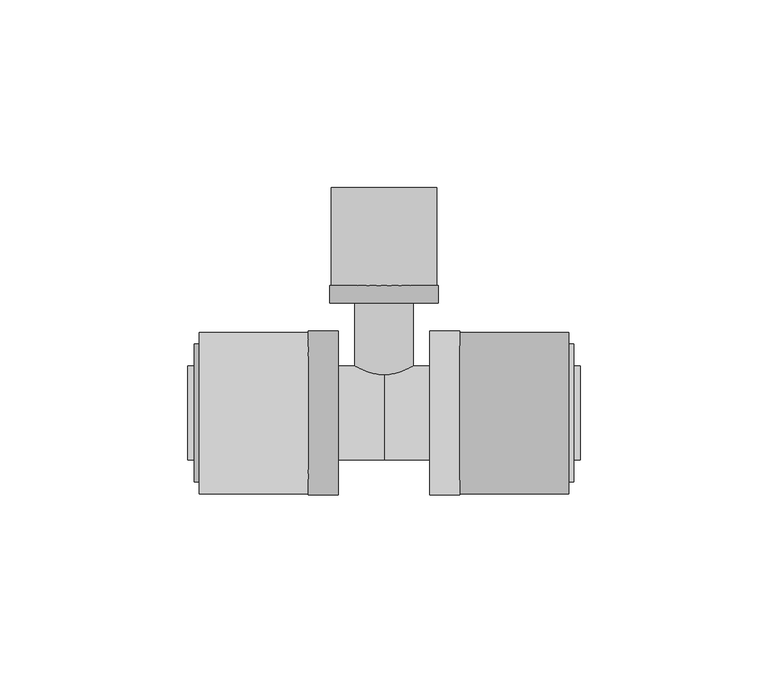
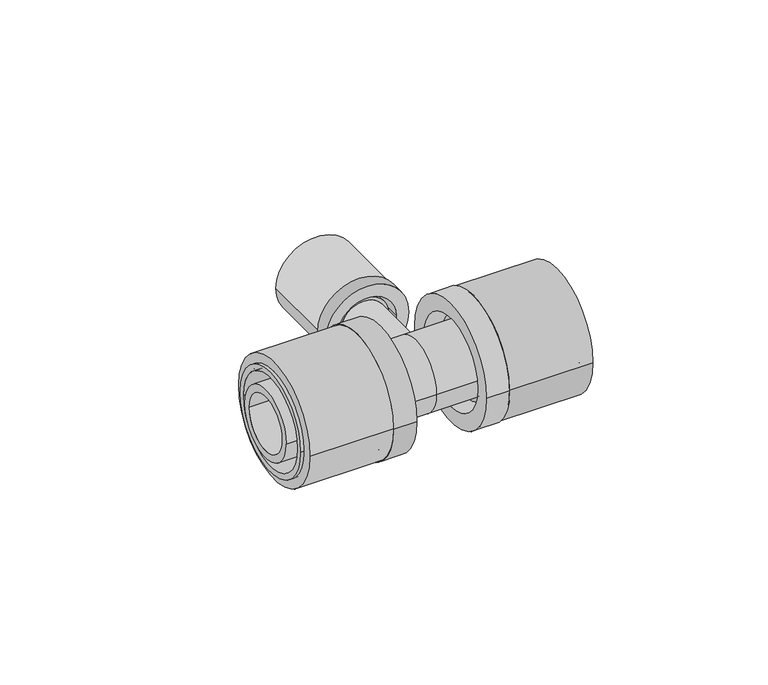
"""IFC4 building model written with IfcOpenShell, lengths in millimetres: pipe fitting geometry, FASTLOC_T-piece_EX+ : FSL T-Piece EX+ AT."""

from ifc_helpers import new_model, si_unit, point, frame, origin, origin_2d, place, context, project, spatial, polyline, circle_curve, trimmed, segment, composite_curve, outline, extrude, source, transform, mapped, element, save
from ifc_brep_helpers import plane_surface, cylinder_surface, revolved_surface, advanced_brep


def pipe_fitting_502111f3(model_context):
    return source(origin(), model_context, "Body", "SolidModel", [
        extrude(outline(composite_curve([segment(trimmed(circle_curve(origin_2d(), 21.5), [point((-21.5, 0.0))], [point((21.5, 0.0))], False, "CARTESIAN"), True, "CONTINUOUS"), segment(trimmed(circle_curve(origin_2d(), 21.5), [point((21.5, 0.0))], [point((-21.5, 0.0))], False, "CARTESIAN"), True, "CONTINUOUS")], self_intersect=False), holes=[composite_curve([segment(trimmed(circle_curve(origin_2d(), 16.85), [point((-16.85, 0.0))], [point((16.85, 0.0))], True, "CARTESIAN"), True, "CONTINUOUS"), segment(trimmed(circle_curve(origin_2d(), 16.85), [point((16.85, 0.0))], [point((-16.85, 0.0))], True, "CARTESIAN"), True, "CONTINUOUS")], self_intersect=False)]), frame((20.2, 0.0, 0.0), z_axis=(1.0, 0.0, 0.0), x_axis=(0.0, 1.0, 0.0)), (0.0, 0.0, 1.0), 29.0),
        advanced_brep(
        [(20.2, 21.8, 0.0), (20.2, -21.8, 0.0), (12.2, -21.8, 0.0), (12.2, 21.8, 0.0), (50.5, 18.35, 0.0), (50.5, -18.35, 0.0), (20.2, -18.35, 0.0), (20.2, 18.35, 0.0), (12.2, 16.2, 0.0), (12.2, -16.2, 0.0), (50.5, -16.2, 0.0), (50.5, 16.2, 0.0)],
        [
            (0, 1, circle_curve(frame((20.2, 0.0, 0.0), z_axis=(-1.0, 0.0, 0.0), x_axis=(0.0, -1.0, 0.0)), 21.8)),
            (1, 2),
            (2, 3, circle_curve(frame((12.2, 0.0, 0.0), z_axis=(1.0, 0.0, 0.0), x_axis=(0.0, -1.0, 0.0)), 21.8)),
            (3, 0),
            (4, 5, circle_curve(frame((50.5, 0.0, 0.0), z_axis=(-1.0, 0.0, 0.0), x_axis=(0.0, -1.0, 0.0)), 18.35)),
            (5, 6),
            (6, 7, circle_curve(frame((20.2, 0.0, 0.0), z_axis=(1.0, 0.0, 0.0), x_axis=(0.0, -1.0, 0.0)), 18.35)),
            (7, 4),
            (8, 9, circle_curve(frame((12.2, 0.0, 0.0), z_axis=(-1.0, 0.0, 0.0), x_axis=(0.0, -1.0, 0.0)), 16.2)),
            (9, 10),
            (10, 11, circle_curve(frame((50.5, 0.0, 0.0), z_axis=(1.0, 0.0, 0.0), x_axis=(0.0, -1.0, 0.0)), 16.2)),
            (11, 8),
            (1, 0, circle_curve(frame((20.2, 0.0, 0.0), z_axis=(-1.0, 0.0, 0.0), x_axis=(0.0, 1.0, 0.0)), 21.8)),
            (3, 2, circle_curve(frame((12.2, 0.0, 0.0), z_axis=(1.0, 0.0, 0.0), x_axis=(0.0, 1.0, 0.0)), 21.8)),
            (6, 7, circle_curve(frame((20.2, 0.0, 0.0), z_axis=(-1.0, 0.0, 0.0), x_axis=(0.0, 1.0, 0.0)), 18.35)),
            (5, 4, circle_curve(frame((50.5, 0.0, 0.0), z_axis=(-1.0, 0.0, 0.0), x_axis=(0.0, 1.0, 0.0)), 18.35)),
            (10, 11, circle_curve(frame((50.5, 0.0, 0.0), z_axis=(-1.0, 0.0, 0.0), x_axis=(0.0, 1.0, 0.0)), 16.2)),
            (9, 8, circle_curve(frame((12.2, 0.0, 0.0), z_axis=(-1.0, 0.0, 0.0), x_axis=(0.0, 1.0, 0.0)), 16.2)),
        ],
        [
            cylinder_surface(frame((12.2, 0.0, 0.0), z_axis=(1.0, 0.0, 0.0), x_axis=(0.0, -1.0, 0.0)), 21.8),
            cylinder_surface(frame((12.2, 0.0, 0.0), z_axis=(1.0, 0.0, 0.0), x_axis=(0.0, -1.0, 0.0)), 18.35),
            revolved_surface(polyline([(50.5, -16.2, 0.0), (12.2, -16.2, 0.0)]), (12.2, 0.0, 0.0), (1.0, 0.0, 0.0)),
            cylinder_surface(frame((12.2, 0.0, 0.0), z_axis=(1.0, 0.0, 0.0), x_axis=(0.0, 1.0, 0.0)), 21.8),
            plane_surface(frame((20.2, 0.0, 0.0), z_axis=(1.0, 0.0, 0.0), x_axis=(0.0, 1.0, 0.0))),
            cylinder_surface(frame((12.2, 0.0, 0.0), z_axis=(1.0, 0.0, 0.0), x_axis=(0.0, 1.0, 0.0)), 18.35),
            plane_surface(frame((50.5, 0.0, 0.0), z_axis=(1.0, 0.0, 0.0), x_axis=(0.0, 1.0, 0.0))),
            revolved_surface(polyline([(50.5, 16.2, 0.0), (12.2, 16.2, 0.0)]), (12.2, 0.0, 0.0), (1.0, 0.0, 0.0)),
            plane_surface(frame((12.2, 0.0, 0.0), z_axis=(-1.0, 0.0, 0.0), x_axis=(0.0, 1.0, 0.0))),
        ],
        [
            (0, [[1, 2, 3, 4]]),
            (1, [[5, 6, 7, 8]]),
            (2, [[9, 10, 11, 12]]),
            (3, [[13, -4, 14, -2]]),
            (4, [[-13, -1], [15, -7]]),
            (5, [[16, -8, -15, -6]]),
            (6, [[-16, -5], [17, -11]]),
            (7, [[18, -12, -17, -10]]),
            (8, [[-14, -3], [-18, -9]]),
        ],
    ),
        extrude(outline(composite_curve([segment(trimmed(circle_curve(origin_2d(), 21.5), [point((21.5, 0.0))], [point((-21.5, 0.0))], False, "CARTESIAN"), True, "CONTINUOUS"), segment(trimmed(circle_curve(origin_2d(), 21.5), [point((-21.5, 0.0))], [point((21.5, 0.0))], False, "CARTESIAN"), True, "CONTINUOUS")], self_intersect=False), holes=[composite_curve([segment(trimmed(circle_curve(origin_2d(), 16.85), [point((16.85, 0.0))], [point((-16.85, 0.0))], True, "CARTESIAN"), True, "CONTINUOUS"), segment(trimmed(circle_curve(origin_2d(), 16.85), [point((-16.85, 0.0))], [point((16.85, 0.0))], True, "CARTESIAN"), True, "CONTINUOUS")], self_intersect=False)]), frame((-49.2, 0.0, 0.0), z_axis=(1.0, 0.0, 0.0), x_axis=(0.0, 1.0, 0.0)), (0.0, 0.0, 1.0), 29.0),
        advanced_brep(
        [(-20.2, -21.8, 0.0), (-20.2, 21.8, 0.0), (-12.2, 21.8, 0.0), (-12.2, -21.8, 0.0), (-50.5, -18.35, 0.0), (-50.5, 18.35, 0.0), (-20.2, 18.35, 0.0), (-20.2, -18.35, 0.0), (-12.2, -16.2, 0.0), (-12.2, 16.2, 0.0), (-50.5, 16.2, 0.0), (-50.5, -16.2, 0.0)],
        [
            (0, 1, circle_curve(frame((-20.2, 0.0, 0.0), z_axis=(1.0, 0.0, 0.0), x_axis=(0.0, 1.0, 0.0)), 21.8)),
            (1, 2),
            (2, 3, circle_curve(frame((-12.2, 0.0, 0.0), z_axis=(-1.0, 0.0, 0.0), x_axis=(0.0, 1.0, 0.0)), 21.8)),
            (3, 0),
            (4, 5, circle_curve(frame((-50.5, 0.0, 0.0), z_axis=(1.0, 0.0, 0.0), x_axis=(0.0, 1.0, 0.0)), 18.35)),
            (5, 6),
            (6, 7, circle_curve(frame((-20.2, 0.0, 0.0), z_axis=(-1.0, 0.0, 0.0), x_axis=(0.0, 1.0, 0.0)), 18.35)),
            (7, 4),
            (8, 9, circle_curve(frame((-12.2, 0.0, 0.0), z_axis=(1.0, 0.0, 0.0), x_axis=(0.0, 1.0, 0.0)), 16.2)),
            (9, 10),
            (10, 11, circle_curve(frame((-50.5, 0.0, 0.0), z_axis=(-1.0, 0.0, 0.0), x_axis=(0.0, 1.0, 0.0)), 16.2)),
            (11, 8),
            (1, 0, circle_curve(frame((-20.2, 0.0, 0.0), z_axis=(1.0, 0.0, 0.0), x_axis=(0.0, -1.0, 0.0)), 21.8)),
            (3, 2, circle_curve(frame((-12.2, 0.0, 0.0), z_axis=(-1.0, 0.0, 0.0), x_axis=(0.0, -1.0, 0.0)), 21.8)),
            (6, 7, circle_curve(frame((-20.2, 0.0, 0.0), z_axis=(1.0, 0.0, 0.0), x_axis=(0.0, -1.0, 0.0)), 18.35)),
            (5, 4, circle_curve(frame((-50.5, 0.0, 0.0), z_axis=(1.0, 0.0, 0.0), x_axis=(0.0, -1.0, 0.0)), 18.35)),
            (10, 11, circle_curve(frame((-50.5, 0.0, 0.0), z_axis=(1.0, 0.0, 0.0), x_axis=(0.0, -1.0, 0.0)), 16.2)),
            (9, 8, circle_curve(frame((-12.2, 0.0, 0.0), z_axis=(1.0, 0.0, 0.0), x_axis=(0.0, -1.0, 0.0)), 16.2)),
        ],
        [
            cylinder_surface(frame((-12.2, 0.0, 0.0), z_axis=(-1.0, 0.0, 0.0), x_axis=(0.0, 1.0, 0.0)), 21.8),
            cylinder_surface(frame((-12.2, 0.0, 0.0), z_axis=(-1.0, 0.0, 0.0), x_axis=(0.0, 1.0, 0.0)), 18.35),
            revolved_surface(polyline([(-50.5, 16.2, 0.0), (-12.2, 16.2, 0.0)]), (-12.2, 0.0, 0.0), (-1.0, 0.0, 0.0)),
            cylinder_surface(frame((-12.2, 0.0, 0.0), z_axis=(-1.0, 0.0, 0.0), x_axis=(0.0, -1.0, 0.0)), 21.8),
            plane_surface(frame((-20.2, 0.0, 0.0), z_axis=(-1.0, 0.0, 0.0), x_axis=(0.0, -1.0, 0.0))),
            cylinder_surface(frame((-12.2, 0.0, 0.0), z_axis=(-1.0, 0.0, 0.0), x_axis=(0.0, -1.0, 0.0)), 18.35),
            plane_surface(frame((-50.5, 0.0, 0.0), z_axis=(-1.0, 0.0, 0.0), x_axis=(0.0, -1.0, 0.0))),
            revolved_surface(polyline([(-50.5, -16.2, 0.0), (-12.2, -16.2, 0.0)]), (-12.2, 0.0, 0.0), (-1.0, 0.0, 0.0)),
            plane_surface(frame((-12.2, 0.0, 0.0), z_axis=(1.0, 0.0, 0.0), x_axis=(0.0, -1.0, 0.0))),
        ],
        [
            (0, [[1, 2, 3, 4]]),
            (1, [[5, 6, 7, 8]]),
            (2, [[9, 10, 11, 12]]),
            (3, [[13, -4, 14, -2]]),
            (4, [[-13, -1], [15, -7]]),
            (5, [[16, -8, -15, -6]]),
            (6, [[-16, -5], [17, -11]]),
            (7, [[18, -12, -17, -10]]),
            (8, [[-14, -3], [-18, -9]]),
        ],
    ),
        extrude(outline(composite_curve([segment(trimmed(circle_curve(origin_2d(), 14.0), [point((0.0, 14.0))], [point((0.0, -14.0))], False, "CARTESIAN"), True, "CONTINUOUS"), segment(trimmed(circle_curve(origin_2d(), 14.0), [point((0.0, -14.0))], [point((0.0, 14.0))], False, "CARTESIAN"), True, "CONTINUOUS")], self_intersect=False), holes=[composite_curve([segment(trimmed(circle_curve(origin_2d(), 10.7), [point((0.0, 10.7))], [point((0.0, -10.7))], True, "CARTESIAN"), True, "CONTINUOUS"), segment(trimmed(circle_curve(origin_2d(), 10.7), [point((0.0, -10.7))], [point((0.0, 10.7))], True, "CARTESIAN"), True, "CONTINUOUS")], self_intersect=False)]), frame((0.0, 34.0, 0.0), z_axis=(0.0, 1.0, 0.0), x_axis=(0.0, 0.0, 1.0)), (0.0, 0.0, 1.0), 26.0),
        advanced_brep(
        [(-14.5, 34.0, 0.0), (14.5, 34.0, 0.0), (14.5, 29.3, 0.0), (-14.5, 29.3, 0.0), (-11.85, 51.0, 0.0), (11.85, 51.0, 0.0), (11.85, 34.0, 0.0), (-11.85, 34.0, 0.0), (-10.15, 29.3, 0.0), (10.15, 29.3, 0.0), (10.15, 51.0, 0.0), (-10.15, 51.0, 0.0)],
        [
            (0, 1, circle_curve(frame((0.0, 34.0, 0.0), z_axis=(0.0, -1.0, 0.0), x_axis=(1.0, 0.0, 0.0)), 14.5)),
            (1, 2),
            (2, 3, circle_curve(frame((0.0, 29.3, 0.0), z_axis=(0.0, 1.0, 0.0), x_axis=(1.0, 0.0, 0.0)), 14.5)),
            (3, 0),
            (4, 5, circle_curve(frame((0.0, 51.0, 0.0), z_axis=(0.0, -1.0, 0.0), x_axis=(1.0, 0.0, 0.0)), 11.85)),
            (5, 6),
            (6, 7, circle_curve(frame((0.0, 34.0, 0.0), z_axis=(0.0, 1.0, 0.0), x_axis=(1.0, 0.0, 0.0)), 11.85)),
            (7, 4),
            (8, 9, circle_curve(frame((0.0, 29.3, 0.0), z_axis=(0.0, -1.0, 0.0), x_axis=(1.0, 0.0, 0.0)), 10.15)),
            (9, 10),
            (10, 11, circle_curve(frame((0.0, 51.0, 0.0), z_axis=(0.0, 1.0, 0.0), x_axis=(1.0, 0.0, 0.0)), 10.15)),
            (11, 8),
            (1, 0, circle_curve(frame((0.0, 34.0, 0.0), z_axis=(0.0, -1.0, 0.0), x_axis=(-1.0, 0.0, 0.0)), 14.5)),
            (3, 2, circle_curve(frame((0.0, 29.3, 0.0), z_axis=(0.0, 1.0, 0.0), x_axis=(-1.0, 0.0, 0.0)), 14.5)),
            (6, 7, circle_curve(frame((0.0, 34.0, 0.0), z_axis=(0.0, -1.0, 0.0), x_axis=(-1.0, 0.0, 0.0)), 11.85)),
            (5, 4, circle_curve(frame((0.0, 51.0, 0.0), z_axis=(0.0, -1.0, 0.0), x_axis=(-1.0, 0.0, 0.0)), 11.85)),
            (10, 11, circle_curve(frame((0.0, 51.0, 0.0), z_axis=(0.0, -1.0, 0.0), x_axis=(-1.0, 0.0, 0.0)), 10.15)),
            (9, 8, circle_curve(frame((0.0, 29.3, 0.0), z_axis=(0.0, -1.0, 0.0), x_axis=(-1.0, 0.0, 0.0)), 10.15)),
        ],
        [
            cylinder_surface(frame((0.0, 29.3, 0.0), z_axis=(0.0, 1.0, 0.0), x_axis=(1.0, 0.0, 0.0)), 14.5),
            cylinder_surface(frame((0.0, 29.3, 0.0), z_axis=(0.0, 1.0, 0.0), x_axis=(1.0, 0.0, 0.0)), 11.85),
            revolved_surface(polyline([(10.15, 51.0, 0.0), (10.15, 29.3, 0.0)]), (0.0, 29.3, 0.0), (0.0, 1.0, 0.0)),
            cylinder_surface(frame((0.0, 29.3, 0.0), z_axis=(0.0, 1.0, 0.0), x_axis=(-1.0, 0.0, 0.0)), 14.5),
            plane_surface(frame((0.0, 34.0, 0.0), z_axis=(0.0, 1.0, 0.0), x_axis=(-1.0, 0.0, 0.0))),
            cylinder_surface(frame((0.0, 29.3, 0.0), z_axis=(0.0, 1.0, 0.0), x_axis=(-1.0, 0.0, 0.0)), 11.85),
            plane_surface(frame((0.0, 51.0, 0.0), z_axis=(0.0, 1.0, 0.0), x_axis=(-1.0, 0.0, 0.0))),
            revolved_surface(polyline([(-10.15, 51.0, 0.0), (-10.15, 29.3, 0.0)]), (0.0, 29.3, 0.0), (0.0, 1.0, 0.0)),
            plane_surface(frame((0.0, 29.3, 0.0), z_axis=(0.0, -1.0, 0.0), x_axis=(-1.0, 0.0, 0.0))),
        ],
        [
            (0, [[1, 2, 3, 4]]),
            (1, [[5, 6, 7, 8]]),
            (2, [[9, 10, 11, 12]]),
            (3, [[13, -4, 14, -2]]),
            (4, [[-13, -1], [15, -7]]),
            (5, [[16, -8, -15, -6]]),
            (6, [[-16, -5], [17, -11]]),
            (7, [[18, -12, -17, -10]]),
            (8, [[-14, -3], [-18, -9]]),
        ],
    ),
        advanced_brep(
        [(0.0, 12.5, 0.0), (0.0, -12.5, 0.0), (-17.2, -12.5, 0.0), (-17.2, 12.5, 0.0), (17.2, 12.5, 0.0), (17.2, -12.5, 0.0), (20.2, 14.1, 0.0), (20.2, -14.1, 0.0), (17.2, -14.1, 0.0), (17.2, 14.1, 0.0), (52.2, 12.5, 0.0), (52.2, -12.5, 0.0), (20.2, -12.5, 0.0), (20.2, 12.5, 0.0), (-52.2, 9.85, 0.0), (-52.2, -9.85, 0.0), (52.2, -9.85, 0.0), (52.2, 9.85, 0.0), (-20.2, 12.5, 0.0), (-20.2, -12.5, 0.0), (-52.2, -12.5, 0.0), (-52.2, 12.5, 0.0), (-17.2, 16.0, 0.0), (-17.2, -16.0, 0.0), (-20.2, -16.0, 0.0), (-20.2, 16.0, 0.0)],
        [
            (0, 1, circle_curve(frame((0.0, 0.0, 0.0), z_axis=(-1.0, 0.0, 0.0), x_axis=(0.0, -1.0, 0.0)), 12.5)),
            (1, 2),
            (2, 3, circle_curve(frame((-17.2, 0.0, 0.0), z_axis=(1.0, 0.0, 0.0), x_axis=(0.0, -1.0, 0.0)), 12.5)),
            (3, 0),
            (4, 5, circle_curve(frame((17.2, 0.0, 0.0), z_axis=(-1.0, 0.0, 0.0), x_axis=(0.0, -1.0, 0.0)), 12.5)),
            (5, 1),
            (0, 4),
            (6, 7, circle_curve(frame((20.2, 0.0, 0.0), z_axis=(-1.0, 0.0, 0.0), x_axis=(0.0, -1.0, 0.0)), 14.1)),
            (7, 8),
            (8, 9, circle_curve(frame((17.2, 0.0, 0.0), z_axis=(1.0, 0.0, 0.0), x_axis=(0.0, -1.0, 0.0)), 14.1)),
            (9, 6),
            (10, 11, circle_curve(frame((52.2, 0.0, 0.0), z_axis=(-1.0, 0.0, 0.0), x_axis=(0.0, -1.0, 0.0)), 12.5)),
            (11, 12),
            (12, 13, circle_curve(frame((20.2, 0.0, 0.0), z_axis=(1.0, 0.0, 0.0), x_axis=(0.0, -1.0, 0.0)), 12.5)),
            (13, 10),
            (14, 15, circle_curve(frame((-52.2, 0.0, 0.0), z_axis=(-1.0, 0.0, 0.0), x_axis=(0.0, -1.0, 0.0)), 9.85)),
            (15, 16),
            (16, 17, circle_curve(frame((52.2, 0.0, 0.0), z_axis=(1.0, 0.0, 0.0), x_axis=(0.0, -1.0, 0.0)), 9.85)),
            (17, 14),
            (18, 19, circle_curve(frame((-20.2, 0.0, 0.0), z_axis=(-1.0, 0.0, 0.0), x_axis=(0.0, -1.0, 0.0)), 12.5)),
            (19, 20),
            (20, 21, circle_curve(frame((-52.2, 0.0, 0.0), z_axis=(1.0, 0.0, 0.0), x_axis=(0.0, -1.0, 0.0)), 12.5)),
            (21, 18),
            (22, 23, circle_curve(frame((-17.2, 0.0, 0.0), z_axis=(-1.0, 0.0, 0.0), x_axis=(0.0, -1.0, 0.0)), 16.0)),
            (23, 24),
            (24, 25, circle_curve(frame((-20.2, 0.0, 0.0), z_axis=(1.0, 0.0, 0.0), x_axis=(0.0, -1.0, 0.0)), 16.0)),
            (25, 22),
            (22, 23, circle_curve(frame((-17.2, 0.0, 0.0), z_axis=(1.0, 0.0, 0.0), x_axis=(0.0, 1.0, 0.0)), 16.0)),
            (2, 3, circle_curve(frame((-17.2, 0.0, 0.0), z_axis=(-1.0, 0.0, 0.0), x_axis=(0.0, 1.0, 0.0)), 12.5)),
            (1, 0, circle_curve(frame((0.0, 0.0, 0.0), z_axis=(-1.0, 0.0, 0.0), x_axis=(0.0, 1.0, 0.0)), 12.5)),
            (5, 4, circle_curve(frame((17.2, 0.0, 0.0), z_axis=(-1.0, 0.0, 0.0), x_axis=(0.0, 1.0, 0.0)), 12.5)),
            (8, 9, circle_curve(frame((17.2, 0.0, 0.0), z_axis=(-1.0, 0.0, 0.0), x_axis=(0.0, 1.0, 0.0)), 14.1)),
            (7, 6, circle_curve(frame((20.2, 0.0, 0.0), z_axis=(-1.0, 0.0, 0.0), x_axis=(0.0, 1.0, 0.0)), 14.1)),
            (12, 13, circle_curve(frame((20.2, 0.0, 0.0), z_axis=(-1.0, 0.0, 0.0), x_axis=(0.0, 1.0, 0.0)), 12.5)),
            (11, 10, circle_curve(frame((52.2, 0.0, 0.0), z_axis=(-1.0, 0.0, 0.0), x_axis=(0.0, 1.0, 0.0)), 12.5)),
            (16, 17, circle_curve(frame((52.2, 0.0, 0.0), z_axis=(-1.0, 0.0, 0.0), x_axis=(0.0, 1.0, 0.0)), 9.85)),
            (15, 14, circle_curve(frame((-52.2, 0.0, 0.0), z_axis=(-1.0, 0.0, 0.0), x_axis=(0.0, 1.0, 0.0)), 9.85)),
            (20, 21, circle_curve(frame((-52.2, 0.0, 0.0), z_axis=(-1.0, 0.0, 0.0), x_axis=(0.0, 1.0, 0.0)), 12.5)),
            (19, 18, circle_curve(frame((-20.2, 0.0, 0.0), z_axis=(-1.0, 0.0, 0.0), x_axis=(0.0, 1.0, 0.0)), 12.5)),
            (24, 25, circle_curve(frame((-20.2, 0.0, 0.0), z_axis=(-1.0, 0.0, 0.0), x_axis=(0.0, 1.0, 0.0)), 16.0)),
        ],
        [
            cylinder_surface(frame((0.0, 0.0, 0.0), z_axis=(1.0, 0.0, 0.0), x_axis=(0.0, -1.0, 0.0)), 12.5),
            cylinder_surface(frame((0.0, 0.0, 0.0), z_axis=(1.0, 0.0, 0.0), x_axis=(0.0, -1.0, 0.0)), 14.1),
            revolved_surface(polyline([(52.2, -9.85, 0.0), (-52.2, -9.85, 0.0)]), (0.0, 0.0, 0.0), (1.0, 0.0, 0.0)),
            cylinder_surface(frame((0.0, 0.0, 0.0), z_axis=(1.0, 0.0, 0.0), x_axis=(0.0, -1.0, 0.0)), 16.0),
            plane_surface(frame((-17.2, 0.0, 0.0), z_axis=(1.0, 0.0, 0.0), x_axis=(0.0, 1.0, 0.0))),
            cylinder_surface(frame((0.0, 0.0, 0.0), z_axis=(1.0, 0.0, 0.0), x_axis=(0.0, 1.0, 0.0)), 12.5),
            plane_surface(frame((17.2, 0.0, 0.0), z_axis=(-1.0, 0.0, 0.0), x_axis=(0.0, 1.0, 0.0))),
            cylinder_surface(frame((0.0, 0.0, 0.0), z_axis=(1.0, 0.0, 0.0), x_axis=(0.0, 1.0, 0.0)), 14.1),
            plane_surface(frame((20.2, 0.0, 0.0), z_axis=(1.0, 0.0, 0.0), x_axis=(0.0, 1.0, 0.0))),
            plane_surface(frame((52.2, 0.0, 0.0), z_axis=(1.0, 0.0, 0.0), x_axis=(0.0, 1.0, 0.0))),
            revolved_surface(polyline([(52.2, 9.85, 0.0), (-52.2, 9.85, 0.0)]), (0.0, 0.0, 0.0), (1.0, 0.0, 0.0)),
            plane_surface(frame((-52.2, 0.0, 0.0), z_axis=(-1.0, 0.0, 0.0), x_axis=(0.0, 1.0, 0.0))),
            plane_surface(frame((-20.2, 0.0, 0.0), z_axis=(-1.0, 0.0, 0.0), x_axis=(0.0, 1.0, 0.0))),
            cylinder_surface(frame((0.0, 0.0, 0.0), z_axis=(1.0, 0.0, 0.0), x_axis=(0.0, 1.0, 0.0)), 16.0),
        ],
        [
            (0, [[1, 2, 3, 4]]),
            (0, [[5, 6, -1, 7]]),
            (1, [[8, 9, 10, 11]]),
            (0, [[12, 13, 14, 15]]),
            (2, [[16, 17, 18, 19]]),
            (0, [[20, 21, 22, 23]]),
            (3, [[24, 25, 26, 27]]),
            (4, [[28, -24], [29, -3]]),
            (5, [[30, -4, -29, -2]]),
            (5, [[31, -7, -30, -6]]),
            (6, [[32, -10], [-31, -5]]),
            (7, [[33, -11, -32, -9]]),
            (8, [[-33, -8], [34, -14]]),
            (5, [[35, -15, -34, -13]]),
            (9, [[-35, -12], [36, -18]]),
            (10, [[37, -19, -36, -17]]),
            (11, [[38, -22], [-37, -16]]),
            (5, [[39, -23, -38, -21]]),
            (12, [[40, -26], [-39, -20]]),
            (13, [[-28, -27, -40, -25]]),
        ],
    ),
        advanced_brep(
        [(5.75, 51.4, 0.0), (-5.75, 51.4, 0.0), (-5.75, 0.0, 0.0), (5.75, 0.0, 0.0), (7.75, 0.0, 0.0), (-7.75, 0.0, 0.0), (-7.75, 31.33, 0.0), (7.75, 31.33, 0.0), (8.8, 31.33, 0.0), (-8.8, 31.33, 0.0), (-8.8, 34.0, 0.0), (8.8, 34.0, 0.0), (7.75, 34.0, 0.0), (-7.75, 34.0, 0.0), (-7.75, 51.4, 0.0), (7.75, 51.4, 0.0)],
        [
            (0, 1, circle_curve(frame((0.0, 51.4, 0.0), z_axis=(0.0, 1.0, 0.0), x_axis=(-1.0, 0.0, 0.0)), 5.75)),
            (1, 2),
            (2, 3, circle_curve(frame((0.0, 0.0, 0.0), z_axis=(0.0, -1.0, 0.0), x_axis=(-1.0, 0.0, 0.0)), 5.75)),
            (3, 0),
            (4, 5, circle_curve(frame((0.0, 0.0, 0.0), z_axis=(0.0, 1.0, 0.0), x_axis=(-1.0, 0.0, 0.0)), 7.75)),
            (5, 6),
            (6, 7, circle_curve(frame((0.0, 31.33, 0.0), z_axis=(0.0, -1.0, 0.0), x_axis=(-1.0, 0.0, 0.0)), 7.75)),
            (7, 4),
            (8, 9, circle_curve(frame((0.0, 31.33, 0.0), z_axis=(0.0, 1.0, 0.0), x_axis=(-1.0, 0.0, 0.0)), 8.8)),
            (9, 10),
            (10, 11, circle_curve(frame((0.0, 34.0, 0.0), z_axis=(0.0, -1.0, 0.0), x_axis=(-1.0, 0.0, 0.0)), 8.8)),
            (11, 8),
            (12, 13, circle_curve(frame((0.0, 34.0, 0.0), z_axis=(0.0, 1.0, 0.0), x_axis=(-1.0, 0.0, 0.0)), 7.75)),
            (13, 14),
            (14, 15, circle_curve(frame((0.0, 51.4, 0.0), z_axis=(0.0, -1.0, 0.0), x_axis=(-1.0, 0.0, 0.0)), 7.75)),
            (15, 12),
            (1, 0, circle_curve(frame((0.0, 51.4, 0.0), z_axis=(0.0, 1.0, 0.0), x_axis=(1.0, 0.0, 0.0)), 5.75)),
            (3, 2, circle_curve(frame((0.0, 0.0, 0.0), z_axis=(0.0, -1.0, 0.0), x_axis=(1.0, 0.0, 0.0)), 5.75)),
            (4, 5, circle_curve(frame((0.0, 0.0, 0.0), z_axis=(0.0, -1.0, 0.0), x_axis=(1.0, 0.0, 0.0)), 7.75)),
            (7, 6, circle_curve(frame((0.0, 31.33, 0.0), z_axis=(0.0, -1.0, 0.0), x_axis=(1.0, 0.0, 0.0)), 7.75)),
            (8, 9, circle_curve(frame((0.0, 31.33, 0.0), z_axis=(0.0, -1.0, 0.0), x_axis=(1.0, 0.0, 0.0)), 8.8)),
            (11, 10, circle_curve(frame((0.0, 34.0, 0.0), z_axis=(0.0, -1.0, 0.0), x_axis=(1.0, 0.0, 0.0)), 8.8)),
            (12, 13, circle_curve(frame((0.0, 34.0, 0.0), z_axis=(0.0, -1.0, 0.0), x_axis=(1.0, 0.0, 0.0)), 7.75)),
            (15, 14, circle_curve(frame((0.0, 51.4, 0.0), z_axis=(0.0, -1.0, 0.0), x_axis=(1.0, 0.0, 0.0)), 7.75)),
        ],
        [
            revolved_surface(polyline([(-5.75, 0.0, 0.0), (-5.75, 51.4, 0.0)]), (0.0, 0.0, 0.0), (0.0, -1.0, 0.0)),
            cylinder_surface(frame((0.0, 0.0, 0.0), z_axis=(0.0, -1.0, 0.0), x_axis=(-1.0, 0.0, 0.0)), 7.75),
            cylinder_surface(frame((0.0, 0.0, 0.0), z_axis=(0.0, -1.0, 0.0), x_axis=(-1.0, 0.0, 0.0)), 8.8),
            revolved_surface(polyline([(5.75, 0.0, 0.0), (5.75, 51.4, 0.0)]), (0.0, 0.0, 0.0), (0.0, -1.0, 0.0)),
            plane_surface(frame((0.0, 0.0, 0.0), z_axis=(0.0, -1.0, 0.0), x_axis=(1.0, 0.0, 0.0))),
            cylinder_surface(frame((0.0, 0.0, 0.0), z_axis=(0.0, -1.0, 0.0), x_axis=(1.0, 0.0, 0.0)), 7.75),
            plane_surface(frame((0.0, 31.33, 0.0), z_axis=(0.0, -1.0, 0.0), x_axis=(1.0, 0.0, 0.0))),
            cylinder_surface(frame((0.0, 0.0, 0.0), z_axis=(0.0, -1.0, 0.0), x_axis=(1.0, 0.0, 0.0)), 8.8),
            plane_surface(frame((0.0, 34.0, 0.0), z_axis=(0.0, 1.0, 0.0), x_axis=(1.0, 0.0, 0.0))),
            plane_surface(frame((0.0, 51.4, 0.0), z_axis=(0.0, 1.0, 0.0), x_axis=(1.0, 0.0, 0.0))),
        ],
        [
            (0, [[1, 2, 3, 4]]),
            (1, [[5, 6, 7, 8]]),
            (2, [[9, 10, 11, 12]]),
            (1, [[13, 14, 15, 16]]),
            (3, [[17, -4, 18, -2]]),
            (4, [[19, -5], [-18, -3]]),
            (5, [[-19, -8, 20, -6]]),
            (6, [[21, -9], [-20, -7]]),
            (7, [[-21, -12, 22, -10]]),
            (8, [[-22, -11], [23, -13]]),
            (5, [[-23, -16, 24, -14]]),
            (9, [[-24, -15], [-17, -1]]),
        ],
    ),
    ])


if __name__ == "__main__":
    model = new_model("IFC4")
    model_context = context("Model", 3, world=origin())
    ifc_project = project(units=[si_unit("LENGTHUNIT", "METRE", prefix="MILLI")], contexts=[model_context])
    site = spatial("IfcSite", under=ifc_project)
    building = spatial("IfcBuilding", under=site)
    placement = place(None, origin())
    pipe_fitting_shape = pipe_fitting_502111f3(model_context)
    element("IfcPipeFitting", 1, ObjectType="FASTLOC_T-piece_EX+ : FSL T-Piece EX+ AT", at=placement, inside=building, context=model_context, shape_type="MappedRepresentation", body=[
        mapped(pipe_fitting_shape, transform((0.0, 0.0, 0.0), x_axis=(1.0, 0.0, 0.0), y_axis=(0.0, 1.0, 0.0), z_axis=(0.0, 0.0, 1.0))),
    ])
    save(model, "model.ifc")
